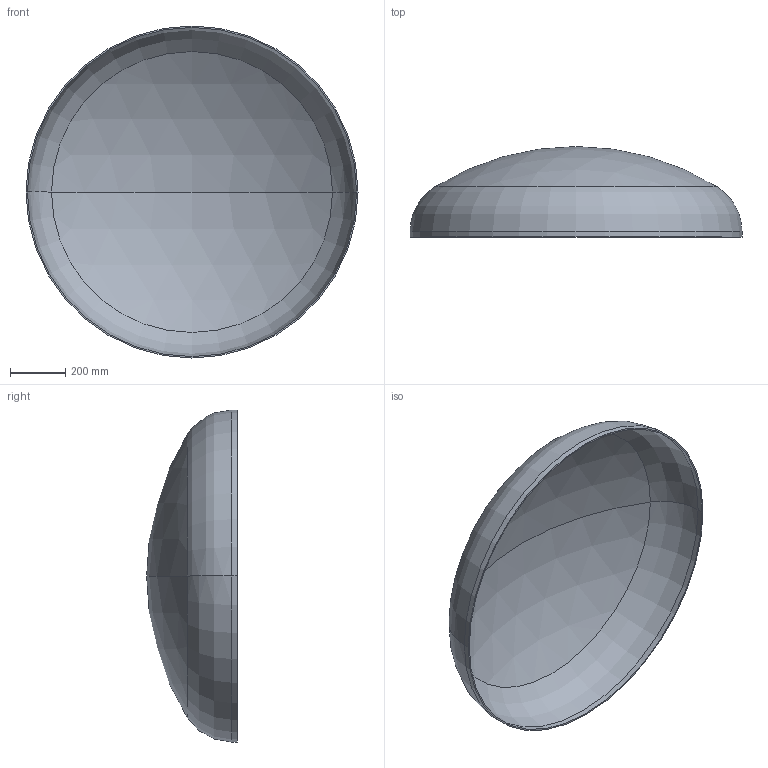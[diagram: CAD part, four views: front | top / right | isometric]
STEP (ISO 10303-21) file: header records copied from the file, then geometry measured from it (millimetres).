
FILE_DESCRIPTION (( 'STEP AP203' ), '1' );
FILE_NAME ('DIN 28013 Korbbogenform_-_Boden DIN 28013 - 1200 x 20 - I - s=5.step', '2016-07-01T09:19:19', ( '' ), ( '' ), 'SwSTEP 2.0', 'SolidWorks 2013', '' );
FILE_SCHEMA (( 'CONFIG_CONTROL_DESIGN' ));
Length unit declared in the file: millimetre
Products named in the file (1): DIN 28013 Korbbogenform_-_Boden DIN 28013 - 1200 x 20 - I - s=5
Bounding box: 1200 x 327.33 x 1200 mm (x, y, z)
Volume: 8166324 mm3; surface area: 3285351.7 mm2
Topology: 1 solids, 1 shells, 13 faces, 24 edges, 14 vertices
Faces by surface type: torus 4, cylinder 4, sphere 4, plane 1
Entity records: 407 total; most frequent: DIRECTION 72, CARTESIAN_POINT 52, ORIENTED_EDGE 48, AXIS2_PLACEMENT_3D 34, EDGE_CURVE 24, CIRCLE 20, VERTEX_POINT 14, EDGE_LOOP 14
